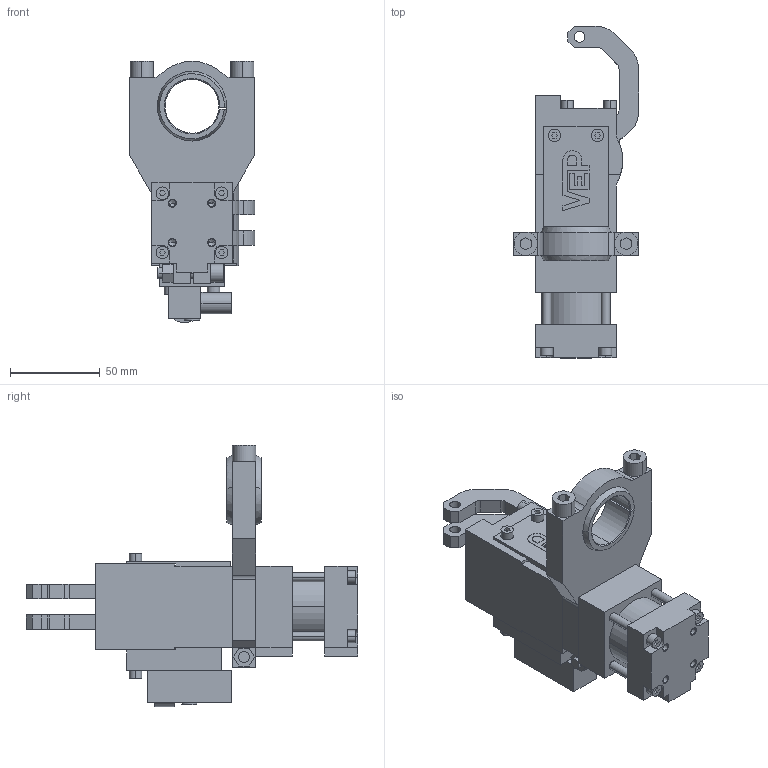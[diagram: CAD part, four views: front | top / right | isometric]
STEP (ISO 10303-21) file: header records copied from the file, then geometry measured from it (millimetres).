
FILE_DESCRIPTION (( 'STEP AP214' ), '1' );
FILE_NAME ('b32_axsx_pra___x_b30.STEP', '2018-05-08T12:46:31', ( 'vepadmin' ), ( 'Hewlett-Packard Company' ), 'SwSTEP 2.0', 'SolidWorks 2018', '' );
FILE_SCHEMA (( 'AUTOMOTIVE_DESIGN' ));
Length unit declared in the file: millimetre
Products named in the file (9): b32_axsx_pra___x_b30; calotta_sferica_30_b32; attacco_snodo_b30_b32; gruppo_cilindro_b32; blocchetto_p&f_90; scatola_micro_b32; riparo_micro_b32; leva_b32a_x; gruppo_montante_b32a
Assembly tree (8 placements, depth 2):
  b32_axsx_pra___x_b30
    gruppo_montante_b32a
    leva_b32a_x
    riparo_micro_b32
    scatola_micro_b32
    blocchetto_p&f_90
    gruppo_cilindro_b32
    attacco_snodo_b30_b32
    calotta_sferica_30_b32
Bounding box: 70 x 185 x 145.6 mm (x, y, z)
Volume: 373530 mm3; surface area: 104274.8 mm2
Topology: 9 solids, 9 shells, 534 faces, 1375 edges, 892 vertices
Faces by surface type: plane 319, cylinder 171, cone 40, sphere 4
Entity records: 16482 total; most frequent: DIRECTION 2821, CARTESIAN_POINT 2804, ORIENTED_EDGE 2700, EDGE_CURVE 1350, LINE 961, VECTOR 961, AXIS2_PLACEMENT_3D 930, VERTEX_POINT 885
